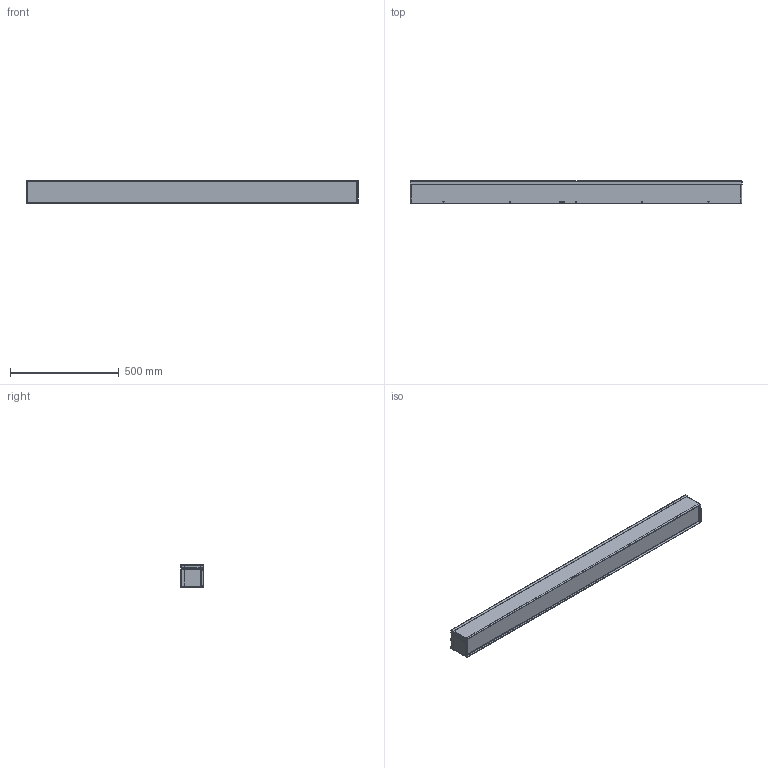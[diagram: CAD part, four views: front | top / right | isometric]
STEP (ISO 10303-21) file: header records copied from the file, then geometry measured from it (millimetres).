
FILE_DESCRIPTION((''),'2;1');
FILE_NAME('/scratch/bitterling/a00628/f-4460rtgv.stp', '2005-01-28T08:39:38',('User'),('SDRC'),'I-DEAS Master Series 9','UNIX', 'Yes');
FILE_SCHEMA(('AUTOMOTIVE_DESIGN { 1 0 10303 214 0 1 1 1 }'));
Length unit declared in the file: inch
Products named in the file (5): assy_3r_econo_trough_4x4x60; 87790579; 87790608; 87790585; 87790581
Assembly tree (4 placements, depth 2):
  assy_3r_econo_trough_4x4x60
    87790579
    87790608
    87790585
    87790581
Bounding box: 1527.56 x 103 x 108.58 mm (x, y, z)
Volume: 1033070.3 mm3; surface area: 1498574.8 mm2
Topology: 4 solids, 4 shells, 180 faces, 462 edges, 298 vertices
Faces by surface type: bspline 180
Entity records: 5934 total; most frequent: CARTESIAN_POINT 2942, ORIENTED_EDGE 924, EDGE_CURVE 462, VERTEX_POINT 298, QUASI_UNIFORM_CURVE 272, EDGE_LOOP 220, FACE_OUTER_BOUND 180, ADVANCED_FACE 180
